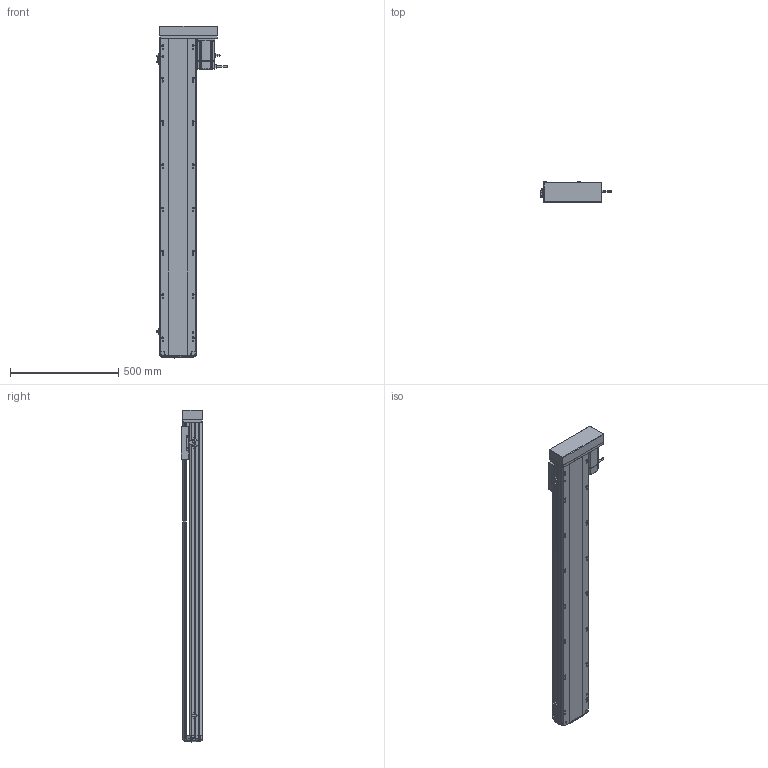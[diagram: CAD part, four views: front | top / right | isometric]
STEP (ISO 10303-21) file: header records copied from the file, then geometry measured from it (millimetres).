
FILE_DESCRIPTION (( 'STEP AP214' ), '1' );
FILE_NAME ('RTH17-XX-1250-L-M75-C4.STEP', '2025-10-24T10:37:21', ( '' ), ( '' ), 'SwSTEP 2.0', 'SolidWorks 2018', '' );
FILE_SCHEMA (( 'AUTOMOTIVE_DESIGN' ));
Length unit declared in the file: millimetre
Products named in the file (10): N_M75^RTH17-XX-XX-L-M75-C4（方程式）; N_RTH17-E-004丝杆螺母连接座^RTH17-XX-XX-L-M75-C4（方程式）; N_RTH17-M-011底座^RTH17-XX-XX-L-M75-C4（方程式）; N_OMRON EE-SX672 換覜ん^RTH17-XX-XX-L-M75-C4ㄗ源最宒ㄘ; N_RTH17-L-008-P75电机安装板左转折^RTH17-XX-XX-L-M75-C4（方程式）; N_RTH-L-012 感应片(外置)^RTH17-XX-XX-L-M75-C4（方程式）; N_RTH17-GY-001P^RTH17-XX-XX-L-M75-C4（方程式）; N_RTH17-M-007上盖^RTH17-XX-XX-L-M75-C4（方程式）; RTH17-XX-1250-L-M75-C4; N_RTH17-L-018盖子^RTH17-XX-XX-L-M75-C4（方程式）
Assembly tree (11 placements, depth 2):
  RTH17-XX-1250-L-M75-C4
    N_RTH17-M-011底座^RTH17-XX-XX-L-M75-C4（方程式）
    N_RTH17-M-007上盖^RTH17-XX-XX-L-M75-C4（方程式）
    N_M75^RTH17-XX-XX-L-M75-C4（方程式）
    N_OMRON EE-SX672 換覜ん^RTH17-XX-XX-L-M75-C4ㄗ源最宒ㄘ  x3
    N_RTH-L-012 感应片(外置)^RTH17-XX-XX-L-M75-C4（方程式）
    N_RTH17-L-008-P75电机安装板左转折^RTH17-XX-XX-L-M75-C4（方程式）
    N_RTH17-L-018盖子^RTH17-XX-XX-L-M75-C4（方程式）
    N_RTH17-E-004丝杆螺母连接座^RTH17-XX-XX-L-M75-C4（方程式）
    N_RTH17-GY-001P^RTH17-XX-XX-L-M75-C4（方程式）
Bounding box: 326.7 x 97 x 1532.99 mm (x, y, z)
Volume: 12993834.9 mm3; surface area: 1624632.2 mm2
Topology: 13 solids, 15 shells, 1789 faces, 4943 edges, 3202 vertices
Faces by surface type: plane 837, cylinder 538, bspline 377, cone 28, torus 9
Entity records: 52717 total; most frequent: CARTESIAN_POINT 21003, ORIENTED_EDGE 6910, DIRECTION 5743, EDGE_CURVE 3459, VERTEX_POINT 2238, AXIS2_PLACEMENT_3D 1945, LINE 1853, VECTOR 1853
